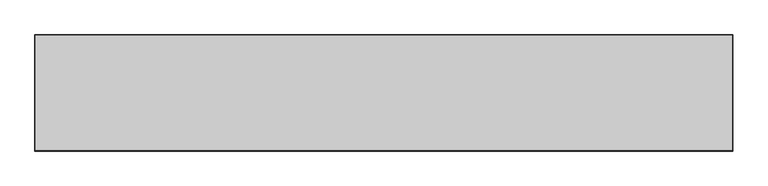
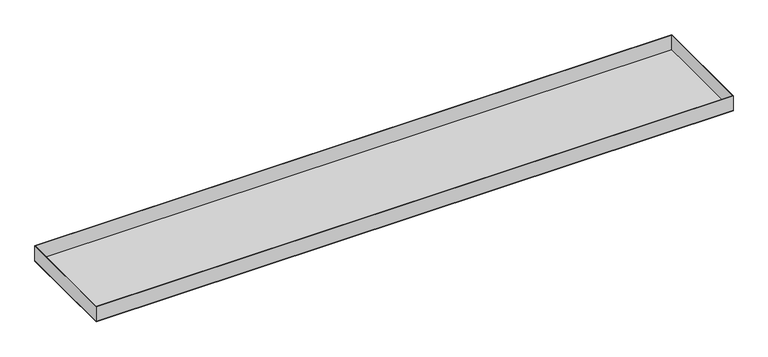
"""IFC4 building model written with IfcOpenShell, lengths in millimetres: proxy geometry, durlum_S4_panel : durlum_S4_panel_wall_width_cut."""

from ifc_helpers import new_model, si_unit, frame, origin, origin_with_axes, place, context, project, spatial, polyline, outline, extrude, source, transform, mapped, element, save


def generic_models_81909a8c(model_context):
    return source(origin(), model_context, "Body", "SweptSolid", [
        extrude(outline(polyline([(595.0, 99.0), (595.0, -99.0), (-595.0, -99.0), (-595.0, 99.0), (595.0, 99.0)]), holes=[polyline([(594.0, 98.0), (-594.0, 98.0), (-594.0, -98.0), (594.0, -98.0), (594.0, 98.0)])]), frame((0.0, 0.0, 1.0), z_axis=(0.0, 0.0, 1.0), x_axis=(1.0, 0.0, 0.0)), (0.0, 0.0, 1.0), 29.0),
        extrude(outline(polyline([(594.0, 98.0), (594.0, -98.0), (-594.0, -98.0), (-594.0, 98.0), (594.0, 98.0)])), frame((0.0, 0.0, 1.0), z_axis=(0.0, 0.0, 1.0), x_axis=(1.0, 0.0, 0.0)), (0.0, 0.0, 1.0), 1.0),
        extrude(outline(polyline([(595.0, 99.0), (595.0, -99.0), (-595.0, -99.0), (-595.0, 99.0), (595.0, 99.0)])), origin_with_axes(), (0.0, 0.0, 1.0), 1.0),
    ])


if __name__ == "__main__":
    model = new_model("IFC4")
    model_context = context("Model", 3, world=origin())
    ifc_project = project(units=[si_unit("LENGTHUNIT", "METRE", prefix="MILLI")], contexts=[model_context])
    site = spatial("IfcSite", under=ifc_project)
    building = spatial("IfcBuilding", under=site)
    placement = place(None, origin())
    generic_models_shape = generic_models_81909a8c(model_context)
    element("IfcBuildingElementProxy", 1, Name="durlum_S4_panel : durlum_S4_panel_wall_width_cut", ObjectType="durlum_S4_panel : durlum_S4_panel_wall_width_cut", at=placement, inside=building, context=model_context, shape_type="MappedRepresentation", body=[
        mapped(generic_models_shape, transform((0.0, 0.0, 0.0), x_axis=(1.0, 0.0, 0.0), y_axis=(0.0, 1.0, 0.0), z_axis=(0.0, 0.0, 1.0))),
    ])
    save(model, "model.ifc")
